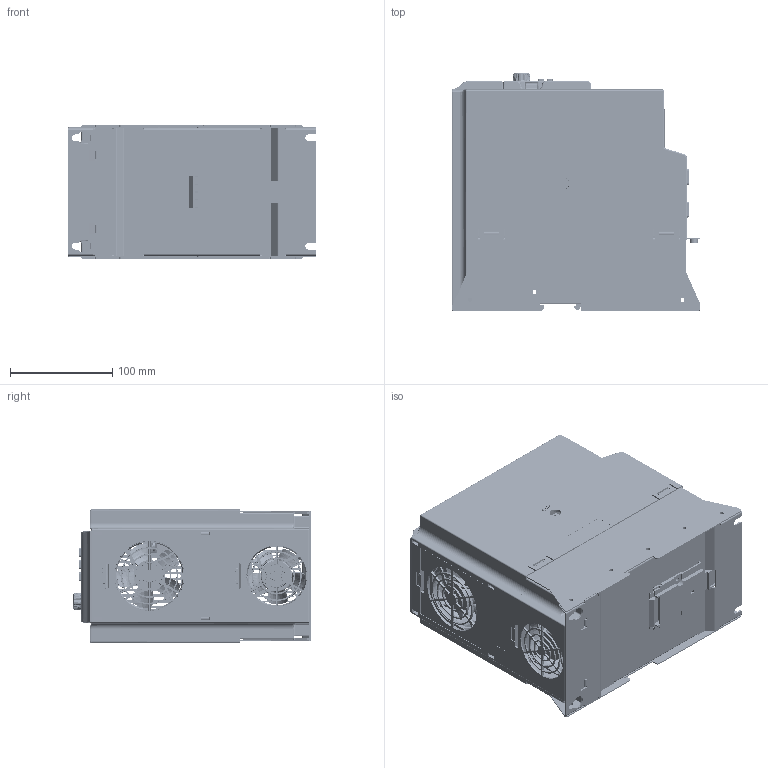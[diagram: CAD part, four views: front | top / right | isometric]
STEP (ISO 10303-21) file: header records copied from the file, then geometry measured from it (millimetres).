
FILE_DESCRIPTION((''),'2;1');
FILE_NAME('E_ASM','2014-07-29T',('zhi2xi'),(''),'PRO/ENGINEER BY PARAMETRIC TECHNOLOGY CORPORATION, 2009380','PRO/ENGINEER BY PARAMETRIC TECHNOLOGY CORPORATION, 2009380','');
FILE_SCHEMA(('CONFIG_CONTROL_DESIGN'));
Length unit declared in the file: millimetre
Products named in the file (72): P_METAL-SUPPORT_25_1; P_BLACK-PLATE_24_1; METAL_HOUSING_ASM_1_ASM_1_ASM; PCB-HOLDER_4_1; HEATSINK_9_1; YDP-COVER_3_1; P_E1_1_1_2_1; P_E2_10_1_3_1; PRT0032_17_1; FAN-_COVER1_8_1; E_FAN_6025_1_1; FAN_COVER1_ASM_4_ASM_1_ASM; FAN-_COVER2_3_1; E_FAN_7015_1_1; FAN_COVER2_ASM_1_ASM_1_ASM; P_E3_6_1; P_E4_4_1; PL_EFC5610_IOCAE_CONVER_1_1; LK_YCP06-PLATINE_1_1; CPU_CONNECTOR-14P_1_1; CONNECTOR_1_1; CONNECTOR_TYCO-331_1_1; 548190519_1_1; CONNECT2-2_1_1; 2185-205SY3_1_1; 1155590000_1_1; LK_YCP06_ASM_1_ASM_1_ASM; DB272710_1_1; 01-IOBACK_CASE_1_1; LD_KCCT_M3X10_1_1; 01_DISPLAYCASE_1_1; DISPLAY_PCB1_1_1; R911329772_1_1; R911330025_1_1; LED_1_1; CONNECTOR2_1_1; DISPLAY_PCB_ASM_1_ASM_1_ASM; BACK_CASE1_1_1; R911330333_FOLIE_1_1; BUUTTON_1_1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
Assembly tree (80 placements, depth 7):
  E_ASM
    E_ASM_1_ASM
      VFC5610-5K5_ASM_45_ASM_1_ASM
        METAL_HOUSING_ASM_1_ASM_1_ASM
          P_METAL-SUPPORT_25_1
          P_BLACK-PLATE_24_1
        PCB-HOLDER_4_1
        HEATSINK_9_1
        YDP-COVER_3_1
        P_E1_1_1_2_1
        P_E2_10_1_3_1
        PRT0032_17_1
        FAN_COVER1_ASM_4_ASM_1_ASM
          FAN-_COVER1_8_1
          E_FAN_6025_1_1
        FAN_COVER2_ASM_1_ASM_1_ASM
          FAN-_COVER2_3_1
          E_FAN_7015_1_1
        P_E3_6_1
        P_E4_4_1
        01-IOCASE_ASM_2_ASM_1_ASM
          PL_EFC5610_IOCAE_CONVER_1_1
          LK_YCP06_ASM_1_ASM_1_ASM
            LK_YCP06-PLATINE_1_1
            CPU_CONNECTOR-14P_1_1
            CONNECTOR_1_1
            CONNECTOR_TYCO-331_1_1
            548190519_1_1
            CONNECT2-2_1_1
            2185-205SY3_1_1
            1155590000_1_1
          DB272710_1_1
          01-IOBACK_CASE_1_1
          LD_KCCT_M3X10_1_1  x2
          02-DISPLAY-CASE_ASM_1_ASM_1_ASM
            01_DISPLAYCASE_1_1
            DISPLAY_PCB_ASM_1_ASM_1_ASM
              DISPLAY_PCB1_1_1
              R911329772_1_1  x6
              R911330025_1_1
              LED_1_1
              CONNECTOR2_1_1
              CONNECTOR_TYCO-331_1_1
            BACK_CASE1_1_1
            R911330333_FOLIE_1_1
            BUUTTON_1_1
            XUAN_NIU_1_1
            LD_KCCT_M3X10_1_1  x2
            LABEL_15X50_1_1
          E_CONNECTOR_SCREW_2_1
        LOGO_REXROTH_1_1
        R912005209_20140328_2_1
        YMB25-03_0418_1_ASM_1_ASM
          MANIFOLD_SOLID_BREP_661764_1
          MANIFOLD_SOLID_BREP_661852_1
        YMB25_0421_1_ASM_1_ASM
          MANIFOLD_SOLID_BREP_661980_1
          MANIFOLD_SOLID_BREP_662068_1
        YMB25-03_0424FINAL_1_ASM_1_ASM
          MANIFOLD_SOLID_BREP_665078_1
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Bounding box: 243 x 232.15 x 130 mm (x, y, z)
Volume: 1203119.7 mm3; surface area: 1285214.2 mm2
Topology: 64 solids, 70 shells, 12656 faces, 35069 edges, 22671 vertices
Faces by surface type: plane 7988, cylinder 2514, cone 678, bspline 610, torus 422, extrusion 269, sphere 175
Entity records: 515849 total; most frequent: CARTESIAN_POINT 120098, ORIENTED_EDGE 66132, DIRECTION 58074, EDGE_CURVE 33066, PRESENTATION_STYLE_ASSIGNMENT 26440, STYLED_ITEM 25555, CURVE_STYLE 24739, VECTOR 23662
